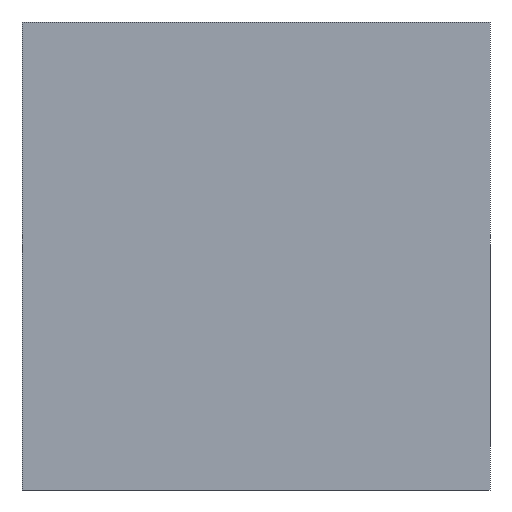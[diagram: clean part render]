
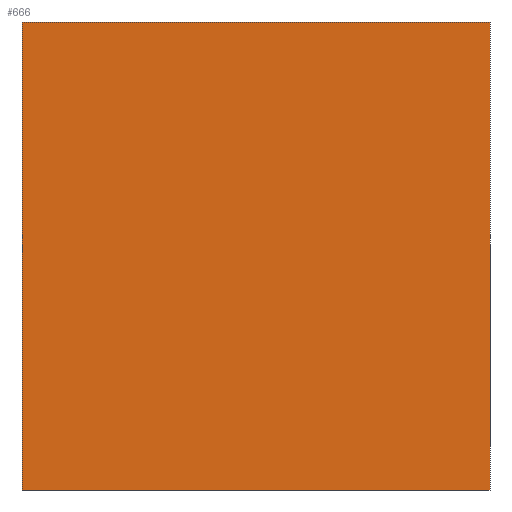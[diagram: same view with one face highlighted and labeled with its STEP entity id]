
A CAD part, left-side view. The second image highlights one B-rep face of the part: STEP entity #666.
In plain terms, the highlighted planar face has unit normal (-1, 0, 0).
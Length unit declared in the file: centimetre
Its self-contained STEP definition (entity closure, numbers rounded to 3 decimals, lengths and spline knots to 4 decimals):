
#25 = ORIENTED_EDGE ( 'NONE', *, *, #603, .F. ) ;
#57 = EDGE_CURVE ( 'NONE', #726, #79, #175, .T. ) ;
#59 = VECTOR ( 'NONE', #130, 100. ) ;
#79 = VERTEX_POINT ( 'NONE', #350 ) ;
#127 = CARTESIAN_POINT ( 'NONE',  ( 0., 1000., 1000. ) ) ;
#130 = DIRECTION ( 'NONE',  ( 0., 0., -1. ) ) ;
#175 = LINE ( 'NONE', #300, #593 ) ;
#219 = EDGE_CURVE ( 'NONE', #79, #441, #570, .T. ) ;
#228 = DIRECTION ( 'NONE',  ( 0., -1., 0. ) ) ;
#300 = CARTESIAN_POINT ( 'NONE',  ( 0., 1000., 1000. ) ) ;
#350 = CARTESIAN_POINT ( 'NONE',  ( 0., 1000., 0. ) ) ;
#368 = CARTESIAN_POINT ( 'NONE',  ( 0., 0., 1000. ) ) ;
#371 = VECTOR ( 'NONE', #228, 100. ) ;
#377 = DIRECTION ( 'NONE',  ( 0., 0., -1. ) ) ;
#382 = PLANE ( 'NONE',  #477 ) ;
#395 = ORIENTED_EDGE ( 'NONE', *, *, #219, .T. ) ;
#441 = VERTEX_POINT ( 'NONE', #752 ) ;
#465 = ORIENTED_EDGE ( 'NONE', *, *, #57, .T. ) ;
#477 = AXIS2_PLACEMENT_3D ( 'NONE', #127, #679, #377 ) ;
#500 = EDGE_LOOP ( 'NONE', ( #395, #25, #588, #465 ) ) ;
#521 = VECTOR ( 'NONE', #765, 100. ) ;
#570 = LINE ( 'NONE', #642, #371 ) ;
#586 = CARTESIAN_POINT ( 'NONE',  ( 0., 1000., 1000. ) ) ;
#588 = ORIENTED_EDGE ( 'NONE', *, *, #745, .F. ) ;
#593 = VECTOR ( 'NONE', #651, 100. ) ;
#603 = EDGE_CURVE ( 'NONE', #682, #441, #621, .T. ) ;
#621 = LINE ( 'NONE', #368, #59 ) ;
#627 = CARTESIAN_POINT ( 'NONE',  ( 0., 0., 1000. ) ) ;
#642 = CARTESIAN_POINT ( 'NONE',  ( 0., 1000., 0. ) ) ;
#643 = CARTESIAN_POINT ( 'NONE',  ( 0., 1000., 1000. ) ) ;
#649 = LINE ( 'NONE', #586, #521 ) ;
#651 = DIRECTION ( 'NONE',  ( 0., 0., -1. ) ) ;
#666 = ADVANCED_FACE ( 'NONE', ( #739 ), #382, .F. ) ;
#679 = DIRECTION ( 'NONE',  ( 1., 0., 0. ) ) ;
#682 = VERTEX_POINT ( 'NONE', #627 ) ;
#726 = VERTEX_POINT ( 'NONE', #643 ) ;
#739 = FACE_OUTER_BOUND ( 'NONE', #500, .T. ) ;
#745 = EDGE_CURVE ( 'NONE', #726, #682, #649, .T. ) ;
#752 = CARTESIAN_POINT ( 'NONE',  ( 0., 0., 0. ) ) ;
#765 = DIRECTION ( 'NONE',  ( 0., -1., 0. ) ) ;
